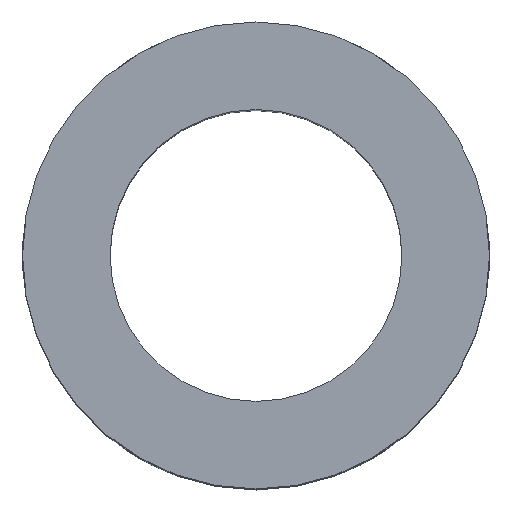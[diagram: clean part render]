
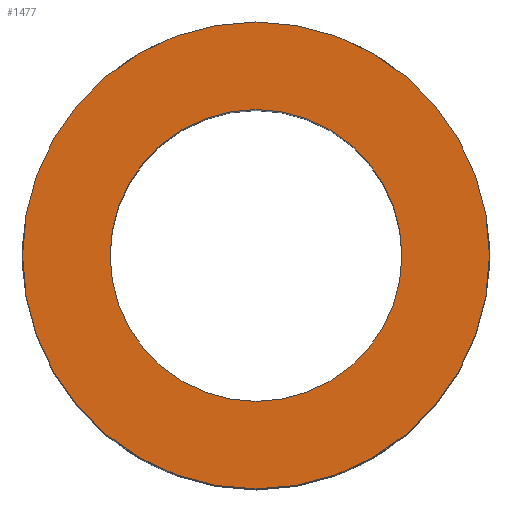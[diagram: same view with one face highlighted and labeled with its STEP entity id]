
A CAD part, top view. The second image highlights one B-rep face of the part: STEP entity #1477.
In plain terms, the highlighted planar face has unit normal (0, 0, 1).
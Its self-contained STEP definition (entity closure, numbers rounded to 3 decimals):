
#51=CARTESIAN_POINT('',(-25.4,0.,66.4));
#52=VERTEX_POINT('',#51);
#68=CARTESIAN_POINT('',(25.4,0.,66.4));
#69=VERTEX_POINT('',#68);
#76=CARTESIAN_POINT('',(0.0,0.0,66.4));
#77=DIRECTION('',(0.0,0.0,-1.0));
#78=DIRECTION('',(-1.0,0.0,0.0));
#79=AXIS2_PLACEMENT_3D('',#76,#77,#78);
#80=CIRCLE('',#79,25.4);
#81=EDGE_CURVE('',#69,#52,#80,.T.);
#91=CARTESIAN_POINT('',(-15.875,0.,66.4));
#92=VERTEX_POINT('',#91);
#101=CARTESIAN_POINT('',(15.875,0.,66.4));
#102=VERTEX_POINT('',#101);
#103=CARTESIAN_POINT('',(0.0,0.0,66.4));
#104=DIRECTION('',(0.0,0.0,-1.0));
#105=DIRECTION('',(-1.0,0.0,0.0));
#106=AXIS2_PLACEMENT_3D('',#103,#104,#105);
#107=CIRCLE('',#106,15.875);
#108=EDGE_CURVE('',#102,#92,#107,.T.);
#1436=CARTESIAN_POINT('',(0.0,0.0,66.4));
#1437=DIRECTION('',(0.0,0.0,-1.0));
#1438=DIRECTION('',(-1.0,0.0,0.0));
#1439=AXIS2_PLACEMENT_3D('',#1436,#1437,#1438);
#1440=CIRCLE('',#1439,15.875);
#1441=EDGE_CURVE('',#92,#102,#1440,.T.);
#1452=CARTESIAN_POINT('',(0.0,0.0,66.4));
#1453=DIRECTION('',(0.0,0.0,-1.0));
#1454=DIRECTION('',(-1.0,0.0,0.0));
#1455=AXIS2_PLACEMENT_3D('',#1452,#1453,#1454);
#1456=CIRCLE('',#1455,25.4);
#1457=EDGE_CURVE('',#52,#69,#1456,.T.);
#1464=CARTESIAN_POINT('',(0.0,0.0,66.4));
#1465=DIRECTION('',(0.0,0.0,-1.0));
#1466=DIRECTION('',(-1.0,0.0,0.0));
#1467=AXIS2_PLACEMENT_3D('',#1464,#1465,#1466);
#1468=PLANE('',#1467);
#1469=ORIENTED_EDGE('',*,*,#81,.F.);
#1470=ORIENTED_EDGE('',*,*,#1457,.F.);
#1471=EDGE_LOOP('',(#1469,#1470));
#1472=FACE_OUTER_BOUND('',#1471,.T.);
#1473=ORIENTED_EDGE('',*,*,#108,.T.);
#1474=ORIENTED_EDGE('',*,*,#1441,.T.);
#1475=EDGE_LOOP('',(#1473,#1474));
#1476=FACE_BOUND('',#1475,.T.);
#1477=ADVANCED_FACE('',(#1472,#1476),#1468,.F.);
